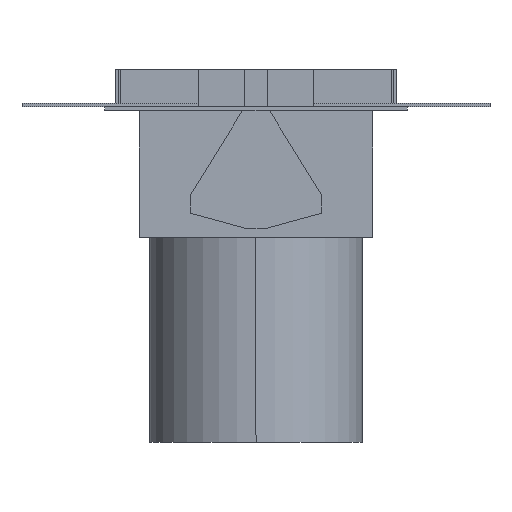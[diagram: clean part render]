
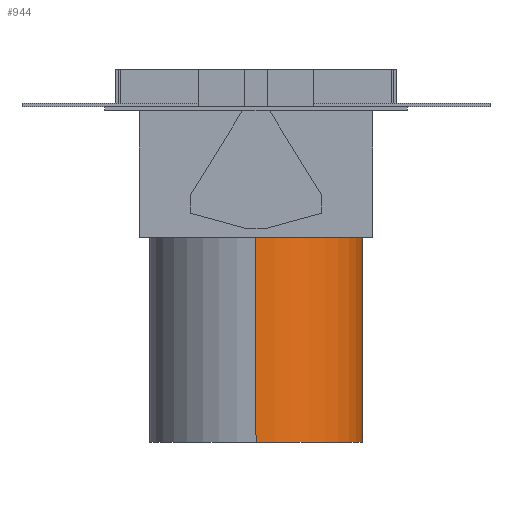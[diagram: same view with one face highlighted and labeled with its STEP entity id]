
A CAD part, left-side view. The second image highlights one B-rep face of the part: STEP entity #944.
In plain terms, the highlighted cylindrical face has radius 57.35 mm (diameter 114.7 mm), a partial arc.
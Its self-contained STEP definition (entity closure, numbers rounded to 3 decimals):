
#15=CIRCLE('',#1031,57.35);
#16=CIRCLE('',#1032,57.35);
#19=CYLINDRICAL_SURFACE('',#1030,57.35);
#44=FACE_OUTER_BOUND('',#103,.T.);
#103=EDGE_LOOP('',(#652,#653,#654,#655));
#172=LINE('',#1377,#297);
#173=LINE('',#1380,#298);
#297=VECTOR('',#1121,304.8);
#298=VECTOR('',#1124,304.8);
#417=VERTEX_POINT('',#1373);
#418=VERTEX_POINT('',#1374);
#419=VERTEX_POINT('',#1376);
#420=VERTEX_POINT('',#1378);
#508=EDGE_CURVE('',#417,#418,#15,.T.);
#509=EDGE_CURVE('',#419,#417,#172,.T.);
#510=EDGE_CURVE('',#420,#419,#16,.T.);
#511=EDGE_CURVE('',#418,#420,#173,.T.);
#652=ORIENTED_EDGE('',*,*,#508,.F.);
#653=ORIENTED_EDGE('',*,*,#509,.F.);
#654=ORIENTED_EDGE('',*,*,#510,.F.);
#655=ORIENTED_EDGE('',*,*,#511,.F.);
#944=ADVANCED_FACE('',(#44),#19,.T.);
#1030=AXIS2_PLACEMENT_3D('',#1372,#1117,#1118);
#1031=AXIS2_PLACEMENT_3D('',#1375,#1119,#1120);
#1032=AXIS2_PLACEMENT_3D('',#1379,#1122,#1123);
#1117=DIRECTION('center_axis',(0.,0.,1.));
#1118=DIRECTION('ref_axis',(-1.,0.,0.));
#1119=DIRECTION('center_axis',(0.,0.,1.));
#1120=DIRECTION('ref_axis',(-1.,0.,0.));
#1121=DIRECTION('',(0.,0.,1.));
#1122=DIRECTION('center_axis',(0.,0.,-1.));
#1123=DIRECTION('ref_axis',(-1.,0.,0.));
#1124=DIRECTION('',(0.,0.,-1.));
#1372=CARTESIAN_POINT('Origin',(0.,0.,
-200.));
#1373=CARTESIAN_POINT('',(-57.35,0.,-32.));
#1374=CARTESIAN_POINT('',(57.35,0.,-32.));
#1375=CARTESIAN_POINT('Origin',(0.,0.,
-32.));
#1376=CARTESIAN_POINT('',(-57.35,0.,-200.));
#1377=CARTESIAN_POINT('',(-57.35,0.,-200.));
#1378=CARTESIAN_POINT('',(57.35,0.,-200.));
#1379=CARTESIAN_POINT('Origin',(0.,0.,
-200.));
#1380=CARTESIAN_POINT('',(57.35,0.,-32.));
